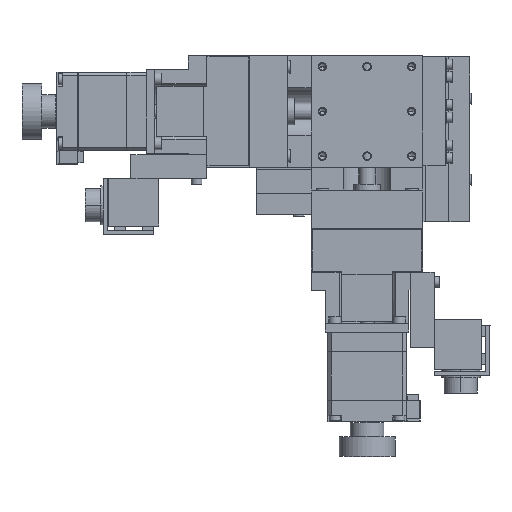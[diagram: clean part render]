
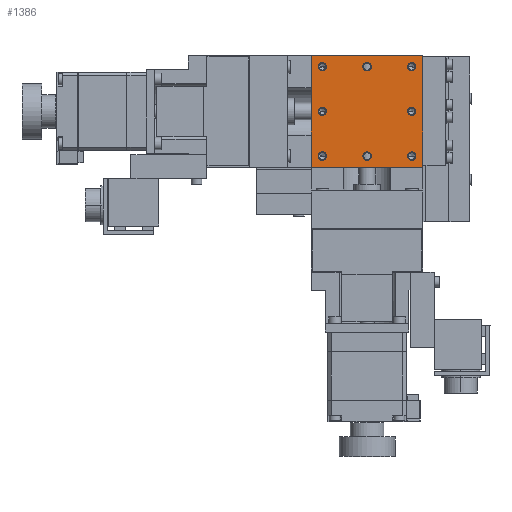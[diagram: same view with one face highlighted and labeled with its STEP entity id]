
A CAD part, top view. The second image highlights one B-rep face of the part: STEP entity #1386.
In plain terms, the highlighted planar face has unit normal (0, 0, 1).
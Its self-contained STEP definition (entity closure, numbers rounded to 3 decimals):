
#1386=ADVANCED_FACE('',(#3732,#3733,#3734,#3735,#3736,#3737,#3738,#3739,#3740),#3741,.F.);
#3732=FACE_BOUND('',#6856,.T.);
#3733=FACE_BOUND('',#6857,.T.);
#3734=FACE_BOUND('',#6858,.T.);
#3735=FACE_BOUND('',#6859,.T.);
#3736=FACE_BOUND('',#6860,.T.);
#3737=FACE_BOUND('',#6861,.T.);
#3738=FACE_BOUND('',#6862,.T.);
#3739=FACE_BOUND('',#6863,.T.);
#3740=FACE_OUTER_BOUND('',#6864,.T.);
#3741=PLANE('',#6865);
#6856=EDGE_LOOP('',(#14600,#14601));
#6857=EDGE_LOOP('',(#14602,#14603));
#6858=EDGE_LOOP('',(#14604,#14605));
#6859=EDGE_LOOP('',(#14606,#14607));
#6860=EDGE_LOOP('',(#14608,#14609));
#6861=EDGE_LOOP('',(#14610,#14611));
#6862=EDGE_LOOP('',(#14612,#14613));
#6863=EDGE_LOOP('',(#14614,#14615));
#6864=EDGE_LOOP('',(#14616,#14617,#14618,#14619));
#6865=AXIS2_PLACEMENT_3D('',#14620,#14621,#14622);
#14600=ORIENTED_EDGE('',*,*,#22161,.T.);
#14601=ORIENTED_EDGE('',*,*,#21984,.T.);
#14602=ORIENTED_EDGE('',*,*,#22162,.T.);
#14603=ORIENTED_EDGE('',*,*,#22046,.T.);
#14604=ORIENTED_EDGE('',*,*,#22163,.T.);
#14605=ORIENTED_EDGE('',*,*,#21995,.T.);
#14606=ORIENTED_EDGE('',*,*,#22097,.T.);
#14607=ORIENTED_EDGE('',*,*,#22096,.T.);
#14608=ORIENTED_EDGE('',*,*,#22164,.T.);
#14609=ORIENTED_EDGE('',*,*,#22005,.T.);
#14610=ORIENTED_EDGE('',*,*,#22159,.T.);
#14611=ORIENTED_EDGE('',*,*,#22068,.T.);
#14612=ORIENTED_EDGE('',*,*,#22118,.T.);
#14613=ORIENTED_EDGE('',*,*,#22077,.T.);
#14614=ORIENTED_EDGE('',*,*,#22165,.T.);
#14615=ORIENTED_EDGE('',*,*,#22009,.T.);
#14616=ORIENTED_EDGE('',*,*,#22134,.T.);
#14617=ORIENTED_EDGE('',*,*,#22166,.F.);
#14618=ORIENTED_EDGE('',*,*,#22167,.F.);
#14619=ORIENTED_EDGE('',*,*,#22168,.T.);
#14620=CARTESIAN_POINT('',(20.,-20.,40.));
#14621=DIRECTION('',(0.,0.,-1.0));
#14622=DIRECTION('',(1.0,0.,0.));
#21984=EDGE_CURVE('',#26882,#26886,#26888,.T.);
#21995=EDGE_CURVE('',#26905,#26907,#26909,.T.);
#22005=EDGE_CURVE('',#26923,#26927,#26929,.T.);
#22009=EDGE_CURVE('',#26931,#26935,#26937,.T.);
#22046=EDGE_CURVE('',#27000,#27004,#27006,.T.);
#22068=EDGE_CURVE('',#27037,#27039,#27041,.T.);
#22077=EDGE_CURVE('',#27051,#27053,#27055,.T.);
#22096=EDGE_CURVE('',#27086,#27088,#27090,.T.);
#22097=EDGE_CURVE('',#27088,#27086,#27091,.T.);
#22118=EDGE_CURVE('',#27053,#27051,#27124,.T.);
#22134=EDGE_CURVE('',#27152,#27150,#27153,.T.);
#22159=EDGE_CURVE('',#27039,#27037,#27194,.T.);
#22161=EDGE_CURVE('',#26886,#26882,#27196,.T.);
#22162=EDGE_CURVE('',#27004,#27000,#27197,.T.);
#22163=EDGE_CURVE('',#26907,#26905,#27198,.T.);
#22164=EDGE_CURVE('',#26927,#26923,#27199,.T.);
#22165=EDGE_CURVE('',#26935,#26931,#27200,.T.);
#22166=EDGE_CURVE('',#27201,#27150,#27202,.T.);
#22167=EDGE_CURVE('',#27203,#27201,#27204,.T.);
#22168=EDGE_CURVE('',#27203,#27152,#27205,.T.);
#26882=VERTEX_POINT('',#34459);
#26886=VERTEX_POINT('',#34464);
#26888=CIRCLE('',#34467,1.5);
#26905=VERTEX_POINT('',#34488);
#26907=VERTEX_POINT('',#34491);
#26909=CIRCLE('',#34494,1.5);
#26923=VERTEX_POINT('',#34510);
#26927=VERTEX_POINT('',#34515);
#26929=CIRCLE('',#34518,1.5);
#26931=VERTEX_POINT('',#34520);
#26935=VERTEX_POINT('',#34525);
#26937=CIRCLE('',#34528,1.5);
#27000=VERTEX_POINT('',#34609);
#27004=VERTEX_POINT('',#34614);
#27006=CIRCLE('',#34617,1.5);
#27037=VERTEX_POINT('',#34658);
#27039=VERTEX_POINT('',#34661);
#27041=CIRCLE('',#34664,1.5);
#27051=VERTEX_POINT('',#34678);
#27053=VERTEX_POINT('',#34681);
#27055=CIRCLE('',#34684,1.5);
#27086=VERTEX_POINT('',#34723);
#27088=VERTEX_POINT('',#34726);
#27090=CIRCLE('',#34729,1.5);
#27091=CIRCLE('',#34730,1.5);
#27124=CIRCLE('',#34775,1.5);
#27150=VERTEX_POINT('',#34811);
#27152=VERTEX_POINT('',#34814);
#27153=LINE('',#34815,#34816);
#27194=CIRCLE('',#34877,1.5);
#27196=CIRCLE('',#34879,1.5);
#27197=CIRCLE('',#34880,1.5);
#27198=CIRCLE('',#34881,1.5);
#27199=CIRCLE('',#34882,1.5);
#27200=CIRCLE('',#34883,1.5);
#27201=VERTEX_POINT('',#34884);
#27202=LINE('',#34885,#34886);
#27203=VERTEX_POINT('',#34887);
#27204=LINE('',#34888,#34889);
#27205=LINE('',#34890,#34891);
#34459=CARTESIAN_POINT('',(14.5,-16.,40.));
#34464=CARTESIAN_POINT('',(17.5,-16.,40.));
#34467=AXIS2_PLACEMENT_3D('',#41938,#41939,#41940);
#34488=CARTESIAN_POINT('',(14.5,16.,40.));
#34491=CARTESIAN_POINT('',(17.5,16.,40.));
#34494=AXIS2_PLACEMENT_3D('',#41959,#41960,#41961);
#34510=CARTESIAN_POINT('',(-1.5,16.,40.));
#34515=CARTESIAN_POINT('',(1.5,16.,40.));
#34518=AXIS2_PLACEMENT_3D('',#41981,#41982,#41983);
#34520=CARTESIAN_POINT('',(-17.5,16.,40.));
#34525=CARTESIAN_POINT('',(-14.5,16.,40.));
#34528=AXIS2_PLACEMENT_3D('',#41989,#41990,#41991);
#34609=CARTESIAN_POINT('',(14.5,0.,40.));
#34614=CARTESIAN_POINT('',(17.5,0.,40.));
#34617=AXIS2_PLACEMENT_3D('',#42060,#42061,#42062);
#34658=CARTESIAN_POINT('',(-17.5,-16.,40.));
#34661=CARTESIAN_POINT('',(-14.5,-16.,40.));
#34664=AXIS2_PLACEMENT_3D('',#42102,#42103,#42104);
#34678=CARTESIAN_POINT('',(-17.5,0.,40.));
#34681=CARTESIAN_POINT('',(-14.5,0.,40.));
#34684=AXIS2_PLACEMENT_3D('',#42117,#42118,#42119);
#34723=CARTESIAN_POINT('',(-1.5,-16.,40.));
#34726=CARTESIAN_POINT('',(1.5,-16.,40.));
#34729=AXIS2_PLACEMENT_3D('',#42154,#42155,#42156);
#34730=AXIS2_PLACEMENT_3D('',#42157,#42158,#42159);
#34775=AXIS2_PLACEMENT_3D('',#42196,#42197,#42198);
#34811=CARTESIAN_POINT('',(-20.,20.,40.));
#34814=CARTESIAN_POINT('',(20.,20.,40.));
#34815=CARTESIAN_POINT('',(20.,20.,40.));
#34816=VECTOR('',#42222,1000.0);
#34877=AXIS2_PLACEMENT_3D('',#42255,#42256,#42257);
#34879=AXIS2_PLACEMENT_3D('',#42261,#42262,#42263);
#34880=AXIS2_PLACEMENT_3D('',#42264,#42265,#42266);
#34881=AXIS2_PLACEMENT_3D('',#42267,#42268,#42269);
#34882=AXIS2_PLACEMENT_3D('',#42270,#42271,#42272);
#34883=AXIS2_PLACEMENT_3D('',#42273,#42274,#42275);
#34884=CARTESIAN_POINT('',(-20.,-20.,40.));
#34885=CARTESIAN_POINT('',(-20.,-20.,40.));
#34886=VECTOR('',#42276,1000.0);
#34887=CARTESIAN_POINT('',(20.,-20.,40.));
#34888=CARTESIAN_POINT('',(20.,-20.,40.));
#34889=VECTOR('',#42277,1000.0);
#34890=CARTESIAN_POINT('',(20.,-20.,40.));
#34891=VECTOR('',#42278,1000.0);
#41938=CARTESIAN_POINT('',(16.,-16.,40.));
#41939=DIRECTION('',(0.,0.,-1.0));
#41940=DIRECTION('',(1.0,0.,0.));
#41959=CARTESIAN_POINT('',(16.,16.,40.));
#41960=DIRECTION('',(0.,0.,-1.0));
#41961=DIRECTION('',(1.0,0.,0.));
#41981=CARTESIAN_POINT('',(0.,16.,40.));
#41982=DIRECTION('',(0.,0.,-1.0));
#41983=DIRECTION('',(1.0,0.,0.));
#41989=CARTESIAN_POINT('',(-16.,16.,40.));
#41990=DIRECTION('',(0.,0.,-1.0));
#41991=DIRECTION('',(1.0,0.,0.));
#42060=CARTESIAN_POINT('',(16.,0.,40.));
#42061=DIRECTION('',(0.,0.,-1.0));
#42062=DIRECTION('',(1.0,0.,0.));
#42102=CARTESIAN_POINT('',(-16.,-16.,40.));
#42103=DIRECTION('',(0.,0.,-1.0));
#42104=DIRECTION('',(1.0,0.,0.));
#42117=CARTESIAN_POINT('',(-16.,0.,40.));
#42118=DIRECTION('',(0.,0.,-1.0));
#42119=DIRECTION('',(1.0,0.,0.));
#42154=CARTESIAN_POINT('',(0.,-16.0,40.));
#42155=DIRECTION('',(0.,0.,-1.0));
#42156=DIRECTION('',(1.0,0.,0.));
#42157=CARTESIAN_POINT('',(0.,-16.0,40.));
#42158=DIRECTION('',(0.,0.,-1.0));
#42159=DIRECTION('',(1.0,0.,0.));
#42196=CARTESIAN_POINT('',(-16.,0.,40.));
#42197=DIRECTION('',(0.,0.,-1.0));
#42198=DIRECTION('',(1.0,0.,0.));
#42222=DIRECTION('',(-1.0,0.,0.));
#42255=CARTESIAN_POINT('',(-16.,-16.,40.));
#42256=DIRECTION('',(0.,0.,-1.0));
#42257=DIRECTION('',(1.0,0.,0.));
#42261=CARTESIAN_POINT('',(16.,-16.,40.));
#42262=DIRECTION('',(0.,0.,-1.0));
#42263=DIRECTION('',(1.0,0.,0.));
#42264=CARTESIAN_POINT('',(16.,0.,40.));
#42265=DIRECTION('',(0.,0.,-1.0));
#42266=DIRECTION('',(1.0,0.,0.));
#42267=CARTESIAN_POINT('',(16.,16.,40.));
#42268=DIRECTION('',(0.,0.,-1.0));
#42269=DIRECTION('',(1.0,0.,0.));
#42270=CARTESIAN_POINT('',(0.,16.,40.));
#42271=DIRECTION('',(0.,0.,-1.0));
#42272=DIRECTION('',(1.0,0.,0.));
#42273=CARTESIAN_POINT('',(-16.,16.,40.));
#42274=DIRECTION('',(0.,0.,-1.0));
#42275=DIRECTION('',(1.0,0.,0.));
#42276=DIRECTION('',(0.,1.0,0.));
#42277=DIRECTION('',(-1.0,0.,0.));
#42278=DIRECTION('',(0.,1.0,0.));
